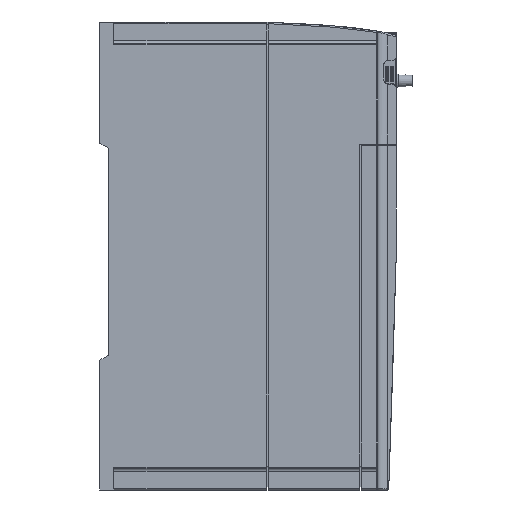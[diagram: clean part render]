
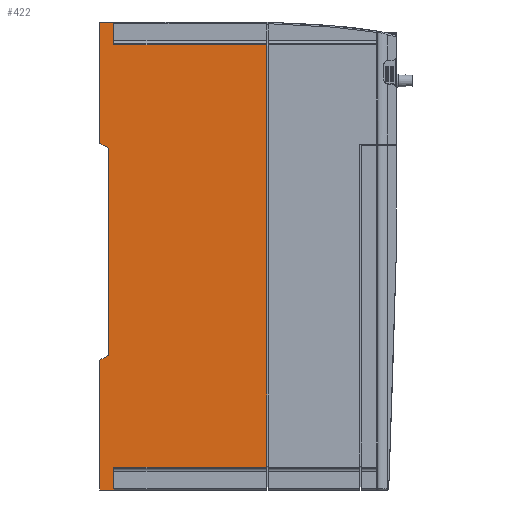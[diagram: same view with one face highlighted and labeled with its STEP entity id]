
A CAD part, front view. The second image highlights one B-rep face of the part: STEP entity #422.
In plain terms, the highlighted planar face has unit normal (0, -1, 0) as drawn and (1, 0, 0) by its records, which use the part's own axes.
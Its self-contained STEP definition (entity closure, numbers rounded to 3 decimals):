
#422=ADVANCED_FACE('',(#8292),#8294,.T.);
#8292=FACE_BOUND('',#8293,.T.);
#8293=EDGE_LOOP('',(#18220,#18221,#18222,#18223,#18224,#18225,#18226,#18227,#18228,
#18229,#18230,#18231));
#8294=PLANE('',#8295);
#8295=AXIS2_PLACEMENT_3D('',#8296,#8297,#8298);
#8296=CARTESIAN_POINT('',(129.95,0.,166.1));
#8297=DIRECTION('',(1.,0.,0.));
#8298=DIRECTION('',(0.,0.,-1.));
#18220=ORIENTED_EDGE('',*,*,#24018,.T.);
#18221=ORIENTED_EDGE('',*,*,#24020,.T.);
#18222=ORIENTED_EDGE('',*,*,#24021,.F.);
#18223=ORIENTED_EDGE('',*,*,#24022,.T.);
#18224=ORIENTED_EDGE('',*,*,#24023,.T.);
#18225=ORIENTED_EDGE('',*,*,#24024,.T.);
#18226=ORIENTED_EDGE('',*,*,#24025,.T.);
#18227=ORIENTED_EDGE('',*,*,#24026,.T.);
#18228=ORIENTED_EDGE('',*,*,#24027,.T.);
#18229=ORIENTED_EDGE('',*,*,#24028,.T.);
#18230=ORIENTED_EDGE('',*,*,#24029,.T.);
#18231=ORIENTED_EDGE('',*,*,#23739,.T.);
#23739=EDGE_CURVE('',#27320,#27318,#27321,.F.);
#24018=EDGE_CURVE('',#27318,#27756,#27757,.F.);
#24020=EDGE_CURVE('',#27756,#27759,#27760,.T.);
#24021=EDGE_CURVE('',#27761,#27759,#27762,.T.);
#24022=EDGE_CURVE('',#27761,#27763,#27764,.T.);
#24023=EDGE_CURVE('',#27763,#27765,#27766,.F.);
#24024=EDGE_CURVE('',#27765,#27767,#27768,.F.);
#24025=EDGE_CURVE('',#27767,#27769,#27770,.F.);
#24026=EDGE_CURVE('',#27769,#27771,#27772,.T.);
#24027=EDGE_CURVE('',#27771,#27773,#27774,.T.);
#24028=EDGE_CURVE('',#27773,#27775,#27776,.T.);
#24029=EDGE_CURVE('',#27775,#27320,#27777,.F.);
#27318=VERTEX_POINT('',#34153);
#27320=VERTEX_POINT('',#34158);
#27321=LINE('',#34159,#34160);
#27756=VERTEX_POINT('',#35271);
#27757=LINE('',#35272,#35273);
#27759=VERTEX_POINT('',#35279);
#27760=LINE('',#35280,#35281);
#27761=VERTEX_POINT('',#35283);
#27762=LINE('',#35284,#35285);
#27763=VERTEX_POINT('',#35287);
#27764=LINE('',#35288,#35289);
#27765=VERTEX_POINT('',#35291);
#27766=LINE('',#35292,#35293);
#27767=VERTEX_POINT('',#35295);
#27768=LINE('',#35296,#35297);
#27769=VERTEX_POINT('',#35299);
#27770=LINE('',#35300,#35301);
#27771=VERTEX_POINT('',#35303);
#27772=LINE('',#35304,#35305);
#27773=VERTEX_POINT('',#35307);
#27774=LINE('',#35308,#35309);
#27775=VERTEX_POINT('',#35311);
#27776=LINE('',#35312,#35313);
#27777=LINE('',#35315,#35316);
#34153=CARTESIAN_POINT('',(129.95,118.5,149.9));
#34158=CARTESIAN_POINT('',(129.95,118.5,-149.8));
#34159=CARTESIAN_POINT('',(129.95,118.5,149.9));
#34160=VECTOR('',#34161,1.);
#34161=DIRECTION('',(0.,0.,-1.));
#35271=CARTESIAN_POINT('',(129.95,10.,149.9));
#35272=CARTESIAN_POINT('',(129.95,10.,149.9));
#35273=VECTOR('',#35274,1.);
#35274=DIRECTION('',(0.,1.,0.));
#35279=CARTESIAN_POINT('',(129.95,10.,166.1));
#35280=CARTESIAN_POINT('',(129.95,10.,149.9));
#35281=VECTOR('',#35282,1.);
#35282=DIRECTION('',(0.,0.,1.));
#35283=CARTESIAN_POINT('',(129.95,0.,166.1));
#35284=CARTESIAN_POINT('',(129.95,0.,166.1));
#35285=VECTOR('',#35286,1.);
#35286=DIRECTION('',(0.,1.,0.));
#35287=CARTESIAN_POINT('',(129.95,0.,80.));
#35288=CARTESIAN_POINT('',(129.95,0.,166.1));
#35289=VECTOR('',#35290,1.);
#35290=DIRECTION('',(0.,0.,-1.));
#35291=CARTESIAN_POINT('',(129.95,6.2,76.55));
#35292=CARTESIAN_POINT('',(129.95,6.2,76.55));
#35293=VECTOR('',#35294,1.);
#35294=DIRECTION('',(0.,-0.874,0.486));
#35295=CARTESIAN_POINT('',(129.95,6.2,-70.45));
#35296=CARTESIAN_POINT('',(129.95,6.2,-70.45));
#35297=VECTOR('',#35298,1.);
#35298=DIRECTION('',(0.,0.,1.));
#35299=CARTESIAN_POINT('',(129.95,0.,-73.9));
#35300=CARTESIAN_POINT('',(129.95,0.,-73.9));
#35301=VECTOR('',#35302,1.);
#35302=DIRECTION('',(0.,0.874,0.486));
#35303=CARTESIAN_POINT('',(129.95,0.,-166.1));
#35304=CARTESIAN_POINT('',(129.95,0.,-73.9));
#35305=VECTOR('',#35306,1.);
#35306=DIRECTION('',(0.,0.,-1.));
#35307=CARTESIAN_POINT('',(129.95,10.,-166.1));
#35308=CARTESIAN_POINT('',(129.95,0.,-166.1));
#35309=VECTOR('',#35310,1.);
#35310=DIRECTION('',(0.,1.,0.));
#35311=CARTESIAN_POINT('',(129.95,10.,-149.8));
#35312=CARTESIAN_POINT('',(129.95,10.,-166.1));
#35313=VECTOR('',#35314,1.);
#35314=DIRECTION('',(0.,0.,1.));
#35315=CARTESIAN_POINT('',(129.95,118.5,-149.8));
#35316=VECTOR('',#35317,1.);
#35317=DIRECTION('',(0.,-1.,0.));
